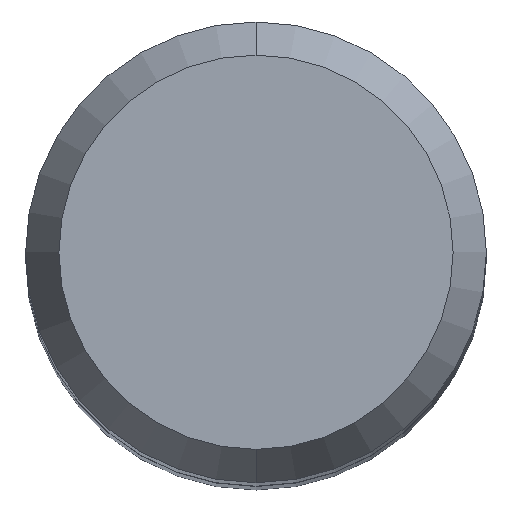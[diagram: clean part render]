
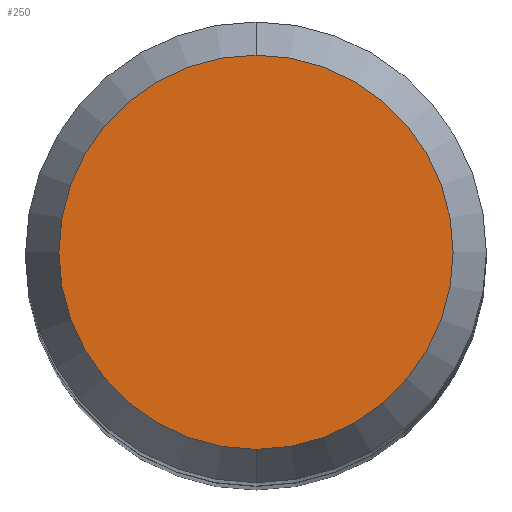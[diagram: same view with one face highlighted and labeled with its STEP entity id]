
A CAD part, top view. The second image highlights one B-rep face of the part: STEP entity #250.
In plain terms, the highlighted free-form (B-spline) face has degree [1, 1] with [2, 2] control points.
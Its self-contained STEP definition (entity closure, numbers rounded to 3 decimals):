
#37=CARTESIAN_POINT('',(0.,0.,0.));
#38=DIRECTION('',(0.,0.,1.));
#39=DIRECTION('',(0.,1.,0.));
#40=AXIS2_PLACEMENT_3D('',#37,#38,#39);
#42=CARTESIAN_POINT('',(0.,0.,0.));
#43=DIRECTION('',(0.,0.,-1.));
#44=DIRECTION('',(0.,1.,0.));
#45=AXIS2_PLACEMENT_3D('',#42,#43,#44);
#150=CARTESIAN_POINT('',(0.,5.134,0.));
#152=VERTEX_POINT('',#150);
#154=CARTESIAN_POINT('',(0.,-5.134,0.));
#156=VERTEX_POINT('',#154);
#241=CARTESIAN_POINT('',(5.34,5.339,0.));
#242=CARTESIAN_POINT('',(-5.34,5.339,0.));
#243=CARTESIAN_POINT('',(5.34,-5.339,0.));
#244=CARTESIAN_POINT('',(-5.34,-5.339,0.));
#245=B_SPLINE_SURFACE_WITH_KNOTS('',1,1,((#241,#242),(#243,#244)),.UNSPECIFIED.,
.F.,.F.,.F.,(2,2),(2,2),(-5.339,5.339),(-5.34,
5.34),.UNSPECIFIED.);
#246=ORIENTED_EDGE('',*,*,#226,.F.);
#247=ORIENTED_EDGE('',*,*,#194,.T.);
#248=EDGE_LOOP('',(#246,#247));
#249=FACE_OUTER_BOUND('',#248,.F.);
#41=CIRCLE('',#40,5.134);
#46=CIRCLE('',#45,5.134);
#194=EDGE_CURVE('',#152,#156,#46,.T.);
#226=EDGE_CURVE('',#152,#156,#41,.T.);
#250=ADVANCED_FACE('',(#249),#245,.F.);
